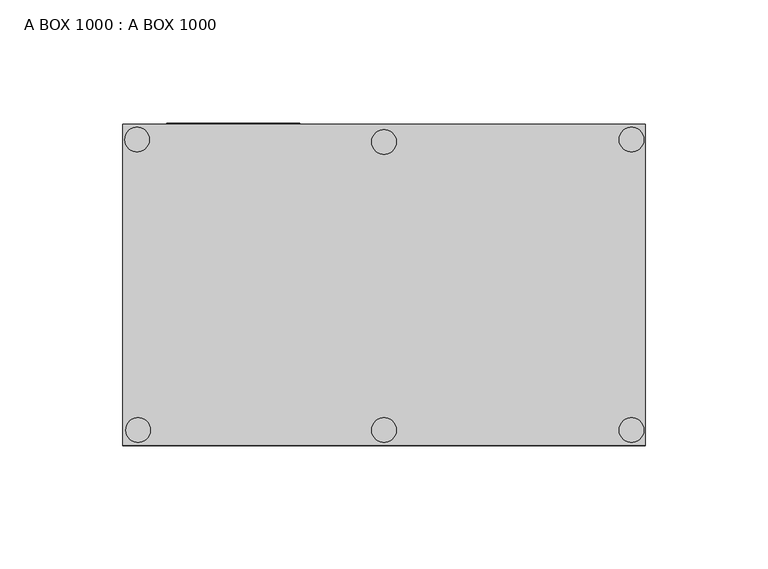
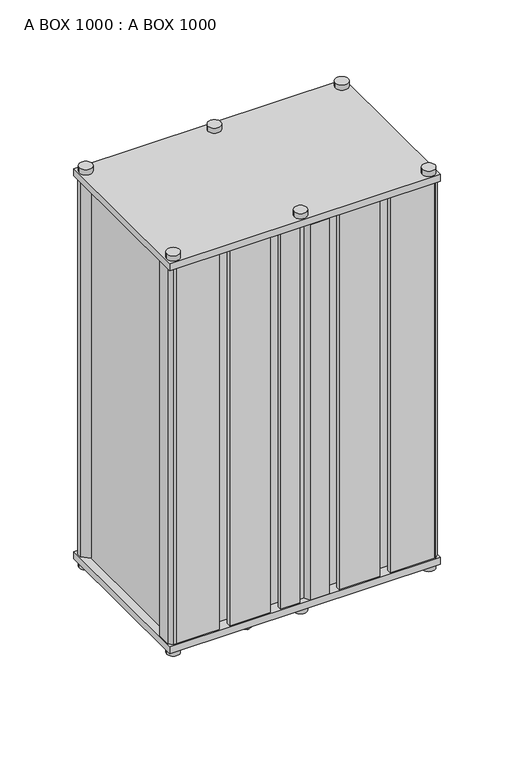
"""IFC4 building model written with IfcOpenShell, lengths in millimetres: proxy geometry, A BOX 1000 : A BOX 1000."""

from ifc_helpers import new_model, si_unit, point, frame, frame_2d, origin, place, context, project, spatial, polyline, circle_curve, trimmed, segment, composite_curve, outline, extrude, source, transform, mapped, element, save


def a_box_1000_a_box_1000_33609f1f(model_context):
    return source(origin(), model_context, "Body", "SweptSolid", [
        extrude(outline(polyline([(-34.310841, 59.4870887), (-88.310841, 59.4870887), (-88.310841, 66.2433876), (-34.310841, 66.2433876), (-34.310841, 59.4870887)])), frame((0.0, 0.0, -151.0), z_axis=(0.0, 0.0, 1.0), x_axis=(1.0, 0.0, 0.0)), (0.0, 0.0, 1.0), 54.0),
        extrude(outline(polyline([(-38.6471908, 18.9980029), (-40.6772787, 3.5306585), (-55.0874359, -2.444906), (-67.4675051, 7.0468739), (-65.4374172, 22.5142183), (-51.0272601, 28.4897828), (-38.6471908, 18.9980029)])), frame((0.0, 0.0, -195.5683204), z_axis=(0.0, 0.0, 1.0), x_axis=(1.0, 0.0, 0.0)), (0.0, 0.0, 1.0), 33.5995704),
        extrude(outline(polyline([(67.9778092, 18.9980029), (65.9477213, 3.5306585), (51.5375641, -2.444906), (39.1574949, 7.0468739), (41.1875828, 22.5142183), (55.5977399, 28.4897828), (67.9778092, 18.9980029)])), frame((0.0, 0.0, -195.5683204), z_axis=(0.0, 0.0, 1.0), x_axis=(1.0, 0.0, 0.0)), (0.0, 0.0, 1.0), 33.5995704),
        extrude(outline(polyline([(34.8313739, -3.5776856), (32.801286, -19.04503), (18.3911289, -25.0205945), (6.0110596, -15.5288147), (8.0411475, -0.0614702), (22.4513046, 5.9140943), (34.8313739, -3.5776856)])), frame((0.0, 0.0, -195.5683204), z_axis=(0.0, 0.0, 1.0), x_axis=(1.0, 0.0, 0.0)), (0.0, 0.0, 1.0), 33.5995704),
        extrude(outline(polyline([(-5.4887165, -3.5776856), (-7.5188044, -19.04503), (-21.9289615, -25.0205945), (-34.3090308, -15.5288147), (-32.2789429, -0.0614702), (-17.8687858, 5.9140943), (-5.4887165, -3.5776856)])), frame((0.0, 0.0, -195.5683204), z_axis=(0.0, 0.0, 1.0), x_axis=(1.0, 0.0, 0.0)), (0.0, 0.0, 1.0), 33.5995704),
        extrude(outline(composite_curve([segment(trimmed(circle_curve(frame_2d((-100.0, -58.632281)), 5.0), [point((-105.0, -58.632281))], [point((-95.0, -58.632281))], False, "CARTESIAN"), True, "CONTINUOUS"), segment(trimmed(circle_curve(frame_2d((-100.0, -58.632281)), 5.0), [point((-95.0, -58.632281))], [point((-105.0, -58.632281))], False, "CARTESIAN"), True, "CONTINUOUS")], self_intersect=False)), frame((0.0, 0.0, -166.2288927), z_axis=(0.0, 0.0, 1.0), x_axis=(1.0, 0.0, 0.0)), (0.0, 0.0, 1.0), 4.2601427),
        extrude(outline(composite_curve([segment(trimmed(circle_curve(frame_2d((0.0, -58.632281)), 5.0), [point((-5.0, -58.632281))], [point((5.0, -58.632281))], False, "CARTESIAN"), True, "CONTINUOUS"), segment(trimmed(circle_curve(frame_2d((0.0, -58.632281)), 5.0), [point((5.0, -58.632281))], [point((-5.0, -58.632281))], False, "CARTESIAN"), True, "CONTINUOUS")], self_intersect=False)), frame((0.0, 0.0, -166.2288927), z_axis=(0.0, 0.0, 1.0), x_axis=(1.0, 0.0, 0.0)), (0.0, 0.0, 1.0), 4.2601427),
        extrude(outline(composite_curve([segment(trimmed(circle_curve(frame_2d((100.625, -58.632281)), 5.0), [point((95.625, -58.632281))], [point((105.625, -58.632281))], False, "CARTESIAN"), True, "CONTINUOUS"), segment(trimmed(circle_curve(frame_2d((100.625, -58.632281)), 5.0), [point((105.625, -58.632281))], [point((95.625, -58.632281))], False, "CARTESIAN"), True, "CONTINUOUS")], self_intersect=False)), frame((0.0, 0.0, -166.2288927), z_axis=(0.0, 0.0, 1.0), x_axis=(1.0, 0.0, 0.0)), (0.0, 0.0, 1.0), 4.2601427),
        extrude(outline(composite_curve([segment(trimmed(circle_curve(frame_2d((100.625, 59.492719)), 5.0), [point((95.625, 59.492719))], [point((105.625, 59.492719))], False, "CARTESIAN"), True, "CONTINUOUS"), segment(trimmed(circle_curve(frame_2d((100.625, 59.492719)), 5.0), [point((105.625, 59.492719))], [point((95.625, 59.492719))], False, "CARTESIAN"), True, "CONTINUOUS")], self_intersect=False)), frame((0.0, 0.0, -166.2288927), z_axis=(0.0, 0.0, 1.0), x_axis=(1.0, 0.0, 0.0)), (0.0, 0.0, 1.0), 4.2601427),
        extrude(outline(composite_curve([segment(trimmed(circle_curve(frame_2d((0.0, 58.555219)), 5.0), [point((-5.0, 58.555219))], [point((5.0, 58.555219))], False, "CARTESIAN"), True, "CONTINUOUS"), segment(trimmed(circle_curve(frame_2d((0.0, 58.555219)), 5.0), [point((5.0, 58.555219))], [point((-5.0, 58.555219))], False, "CARTESIAN"), True, "CONTINUOUS")], self_intersect=False)), frame((0.0, 0.0, -166.2288927), z_axis=(0.0, 0.0, 1.0), x_axis=(1.0, 0.0, 0.0)), (0.0, 0.0, 1.0), 4.2601427),
        extrude(outline(composite_curve([segment(trimmed(circle_curve(frame_2d((-100.4237553, 59.492719)), 5.0), [point((-105.4237553, 59.492719))], [point((-95.4237553, 59.492719))], False, "CARTESIAN"), True, "CONTINUOUS"), segment(trimmed(circle_curve(frame_2d((-100.4237553, 59.492719)), 5.0), [point((-95.4237553, 59.492719))], [point((-105.4237553, 59.492719))], False, "CARTESIAN"), True, "CONTINUOUS")], self_intersect=False)), frame((0.0, 0.0, -166.2288927), z_axis=(0.0, 0.0, 1.0), x_axis=(1.0, 0.0, 0.0)), (0.0, 0.0, 1.0), 4.2601427),
        extrude(outline(composite_curve([segment(trimmed(circle_curve(frame_2d((-100.0, -58.632281)), 5.0), [point((-105.0, -58.632281))], [point((-95.0, -58.632281))], False, "CARTESIAN"), True, "CONTINUOUS"), segment(trimmed(circle_curve(frame_2d((-100.0, -58.632281)), 5.0), [point((-95.0, -58.632281))], [point((-105.0, -58.632281))], False, "CARTESIAN"), True, "CONTINUOUS")], self_intersect=False)), frame((0.0, 0.0, 161.8398573), z_axis=(0.0, 0.0, 1.0), x_axis=(1.0, 0.0, 0.0)), (0.0, 0.0, 1.0), 4.2601427),
        extrude(outline(composite_curve([segment(trimmed(circle_curve(frame_2d((0.0, -58.632281)), 5.0), [point((-5.0, -58.632281))], [point((5.0, -58.632281))], False, "CARTESIAN"), True, "CONTINUOUS"), segment(trimmed(circle_curve(frame_2d((0.0, -58.632281)), 5.0), [point((5.0, -58.632281))], [point((-5.0, -58.632281))], False, "CARTESIAN"), True, "CONTINUOUS")], self_intersect=False)), frame((0.0, 0.0, 161.8398573), z_axis=(0.0, 0.0, 1.0), x_axis=(1.0, 0.0, 0.0)), (0.0, 0.0, 1.0), 4.2601427),
        extrude(outline(composite_curve([segment(trimmed(circle_curve(frame_2d((100.625, -58.632281)), 5.0), [point((95.625, -58.632281))], [point((105.625, -58.632281))], False, "CARTESIAN"), True, "CONTINUOUS"), segment(trimmed(circle_curve(frame_2d((100.625, -58.632281)), 5.0), [point((105.625, -58.632281))], [point((95.625, -58.632281))], False, "CARTESIAN"), True, "CONTINUOUS")], self_intersect=False)), frame((0.0, 0.0, 161.8398573), z_axis=(0.0, 0.0, 1.0), x_axis=(1.0, 0.0, 0.0)), (0.0, 0.0, 1.0), 4.2601427),
        extrude(outline(composite_curve([segment(trimmed(circle_curve(frame_2d((100.625, 59.492719)), 5.0), [point((95.625, 59.492719))], [point((105.625, 59.492719))], False, "CARTESIAN"), True, "CONTINUOUS"), segment(trimmed(circle_curve(frame_2d((100.625, 59.492719)), 5.0), [point((105.625, 59.492719))], [point((95.625, 59.492719))], False, "CARTESIAN"), True, "CONTINUOUS")], self_intersect=False)), frame((0.0, 0.0, 161.8398573), z_axis=(0.0, 0.0, 1.0), x_axis=(1.0, 0.0, 0.0)), (0.0, 0.0, 1.0), 4.2601427),
        extrude(outline(composite_curve([segment(trimmed(circle_curve(frame_2d((0.0, 58.555219)), 5.0), [point((-5.0, 58.555219))], [point((5.0, 58.555219))], False, "CARTESIAN"), True, "CONTINUOUS"), segment(trimmed(circle_curve(frame_2d((0.0, 58.555219)), 5.0), [point((5.0, 58.555219))], [point((-5.0, 58.555219))], False, "CARTESIAN"), True, "CONTINUOUS")], self_intersect=False)), frame((0.0, 0.0, 161.8398573), z_axis=(0.0, 0.0, 1.0), x_axis=(1.0, 0.0, 0.0)), (0.0, 0.0, 1.0), 4.2601427),
        extrude(outline(composite_curve([segment(trimmed(circle_curve(frame_2d((-100.4237553, 59.492719)), 5.0), [point((-105.4237553, 59.492719))], [point((-95.4237553, 59.492719))], False, "CARTESIAN"), True, "CONTINUOUS"), segment(trimmed(circle_curve(frame_2d((-100.4237553, 59.492719)), 5.0), [point((-95.4237553, 59.492719))], [point((-105.4237553, 59.492719))], False, "CARTESIAN"), True, "CONTINUOUS")], self_intersect=False)), frame((0.0, 0.0, 161.8398573), z_axis=(0.0, 0.0, 1.0), x_axis=(1.0, 0.0, 0.0)), (0.0, 0.0, 1.0), 4.2601427),
        extrude(outline(polyline([(106.1271238, 65.7022294), (106.1271238, -64.8944917), (-106.1488058, -64.8944917), (-106.1488058, 65.7022294), (106.1271238, 65.7022294)])), frame((0.0, 0.0, -161.96875), z_axis=(0.0, 0.0, 1.0), x_axis=(1.0, 0.0, 0.0)), (0.0, 0.0, 1.0), 5.8398573),
        extrude(outline(polyline([(106.1271238, 65.7022294), (106.1271238, -64.8944917), (-106.1488058, -64.8944917), (-106.1488058, 65.7022294), (106.1271238, 65.7022294)])), frame((0.0, 0.0, 156.0), z_axis=(0.0, 0.0, 1.0), x_axis=(1.0, 0.0, 0.0)), (0.0, 0.0, 1.0), 5.8398573),
        extrude(outline(polyline([(67.2511263, -64.0477706), (67.2511263, -61.0477706), (72.1011263, -61.0477706), (72.1011263, -56.0477706), (54.1011263, -56.0477706), (54.1011263, -61.0477706), (58.9511263, -61.0477706), (58.9511263, -64.0477706), (27.2511263, -64.0477706), (27.2511263, -61.0477706), (32.1011263, -61.0477706), (32.1011263, -56.0477706), (14.1011263, -56.0477706), (14.1011263, -61.0477706), (18.9511263, -61.0477706), (18.9511263, -64.9532501), (4.062642, -64.9532501), (1.4926003, -60.5018073), (-1.5142822, -60.5018073), (-3.5615451, -64.0477706), (-18.860841, -64.0477706), (-18.860841, -61.0477706), (-13.8988737, -61.0477706), (-13.8988737, -56.0477706), (-31.8988737, -56.0477706), (-31.8988737, -61.0477706), (-27.0488737, -61.0477706), (-27.0488737, -64.0477706), (-58.7488737, -64.0477706), (-58.7488737, -61.0477706), (-53.8988737, -61.0477706), (-53.8988737, -56.0477706), (-71.8988737, -56.0477706), (-71.8988737, -61.0477706), (-67.0488737, -61.0477706), (-67.0488737, -64.0477706), (-100.3276294, -64.0477706), (-103.0331453, -64.0477706), (-105.9035424, -61.1773735), (-105.9035424, -50.7074877), (-100.2120778, -45.0160231), (-100.2120778, 52.7314803), (-105.7581808, 57.8203689), (-105.7581808, 60.9548896), (-101.010841, 65.7022294), (-98.6016385, 65.7022294), (-92.3864978, 59.4870887), (92.4120697, 59.4870887), (98.3564997, 65.4315187), (100.4012235, 65.4315187), (105.5644884, 60.2682539), (105.5644884, 58.0275587), (100.1548775, 52.6179479), (100.1548775, -44.8753907), (105.9324722, -50.6529854), (105.9324722, -61.3544575), (103.239159, -64.0477706), (101.9880135, -64.0477706), (67.2511263, -64.0477706)])), frame((0.0, 0.0, -156.0), z_axis=(0.0, 0.0, 1.0), x_axis=(1.0, 0.0, 0.0)), (0.0, 0.0, 1.0), 312.0),
    ])


if __name__ == "__main__":
    model = new_model("IFC4")
    model_context = context("Model", 3, world=origin())
    ifc_project = project(units=[si_unit("LENGTHUNIT", "METRE", prefix="MILLI")], contexts=[model_context])
    site = spatial("IfcSite", under=ifc_project)
    building = spatial("IfcBuilding", under=site)
    placement = place(None, origin())
    a_box_1000_a_box_1000_shape = a_box_1000_a_box_1000_33609f1f(model_context)
    element("IfcBuildingElementProxy", 1, Name="A BOX 1000 : A BOX 1000", ObjectType="A BOX 1000 : A BOX 1000", at=placement, inside=building, context=model_context, shape_type="MappedRepresentation", body=[
        mapped(a_box_1000_a_box_1000_shape, transform((0.0, 0.0, 0.0), x_axis=(1.0, 0.0, 0.0), y_axis=(0.0, 1.0, 0.0), z_axis=(0.0, 0.0, 1.0))),
    ])
    save(model, "model.ifc")
